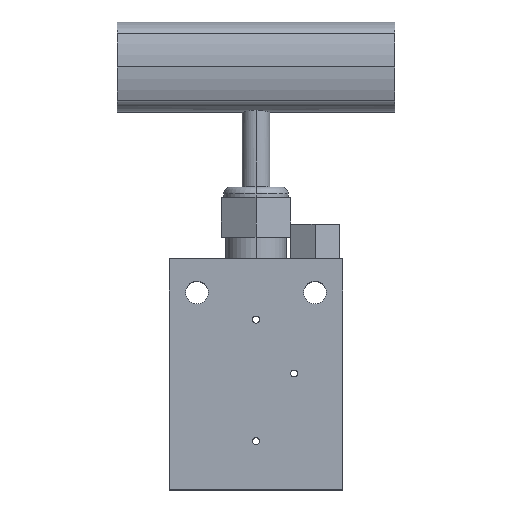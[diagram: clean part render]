
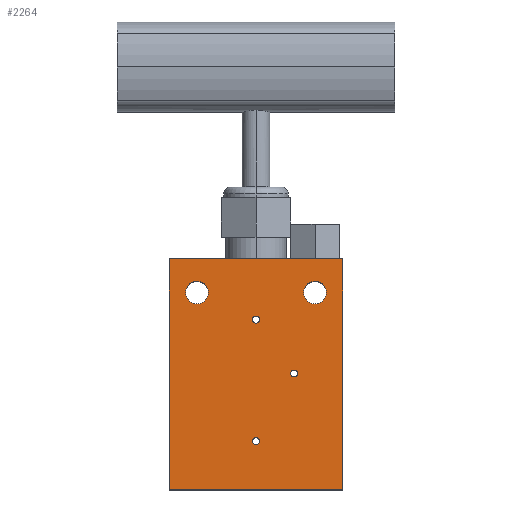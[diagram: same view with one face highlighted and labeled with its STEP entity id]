
A CAD part, top view. The second image highlights one B-rep face of the part: STEP entity #2264.
In plain terms, the highlighted planar face has unit normal (0, 0, 1).
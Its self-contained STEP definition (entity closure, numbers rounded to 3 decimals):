
#11 = CARTESIAN_POINT ( 'NONE',  ( 20.25, 23.55, 12.5 ) ) ;
#55 = EDGE_CURVE ( 'NONE', #1217, #2029, #1736, .T. ) ;
#92 = AXIS2_PLACEMENT_3D ( 'NONE', #2713, #550, #140 ) ;
#94 = DIRECTION ( 'NONE',  ( 0., 0., 1. ) ) ;
#95 = FACE_BOUND ( 'NONE', #2063, .T. ) ;
#112 = FACE_BOUND ( 'NONE', #2641, .T. ) ;
#131 = CARTESIAN_POINT ( 'NONE',  ( 1., 15.75, 12.5 ) ) ;
#139 = EDGE_CURVE ( 'NONE', #3047, #1367, #1787, .T. ) ;
#140 = DIRECTION ( 'NONE',  ( -1., 0., 0. ) ) ;
#154 = DIRECTION ( 'NONE',  ( 1., 0., 0. ) ) ;
#155 = AXIS2_PLACEMENT_3D ( 'NONE', #2219, #94, #2001 ) ;
#161 = CIRCLE ( 'NONE', #1995, 3.25 ) ;
#181 = CIRCLE ( 'NONE', #2253, 1. ) ;
#218 = CARTESIAN_POINT ( 'NONE',  ( -25., -33.25, 12.5 ) ) ;
#221 = ORIENTED_EDGE ( 'NONE', *, *, #1166, .F. ) ;
#250 = EDGE_CURVE ( 'NONE', #770, #2074, #2699, .T. ) ;
#288 = VECTOR ( 'NONE', #425, 1000. ) ;
#329 = DIRECTION ( 'NONE',  ( 0., 0., 1. ) ) ;
#343 = EDGE_CURVE ( 'NONE', #1687, #2174, #161, .T. ) ;
#421 = AXIS2_PLACEMENT_3D ( 'NONE', #2611, #1417, #1137 ) ;
#425 = DIRECTION ( 'NONE',  ( 0., 1., 0. ) ) ;
#429 = AXIS2_PLACEMENT_3D ( 'NONE', #2325, #2050, #866 ) ;
#533 = EDGE_LOOP ( 'NONE', ( #221, #2715 ) ) ;
#550 = DIRECTION ( 'NONE',  ( 0., 0., 1. ) ) ;
#562 = EDGE_LOOP ( 'NONE', ( #1670, #2669 ) ) ;
#563 = CARTESIAN_POINT ( 'NONE',  ( 0., 0., 12.5 ) ) ;
#570 = ORIENTED_EDGE ( 'NONE', *, *, #250, .F. ) ;
#580 = LINE ( 'NONE', #1529, #1004 ) ;
#592 = FACE_BOUND ( 'NONE', #562, .T. ) ;
#595 = LINE ( 'NONE', #1565, #1893 ) ;
#629 = CARTESIAN_POINT ( 'NONE',  ( -25., 33.25, 12.5 ) ) ;
#676 = EDGE_CURVE ( 'NONE', #926, #2058, #2732, .T. ) ;
#686 = EDGE_LOOP ( 'NONE', ( #2919, #910, #2983, #3068 ) ) ;
#699 = ORIENTED_EDGE ( 'NONE', *, *, #1050, .F. ) ;
#702 = CARTESIAN_POINT ( 'NONE',  ( 11., 0.25, 12.5 ) ) ;
#712 = DIRECTION ( 'NONE',  ( 1., 0., 0. ) ) ;
#722 = DIRECTION ( 'NONE',  ( 1., 0., 0. ) ) ;
#770 = VERTEX_POINT ( 'NONE', #131 ) ;
#800 = CARTESIAN_POINT ( 'NONE',  ( -17., 23.55, 12.5 ) ) ;
#850 = PLANE ( 'NONE',  #2354 ) ;
#866 = DIRECTION ( 'NONE',  ( 1., 0., 0. ) ) ;
#906 = CARTESIAN_POINT ( 'NONE',  ( 17., 23.55, 12.5 ) ) ;
#910 = ORIENTED_EDGE ( 'NONE', *, *, #676, .T. ) ;
#926 = VERTEX_POINT ( 'NONE', #218 ) ;
#967 = ORIENTED_EDGE ( 'NONE', *, *, #55, .F. ) ;
#1004 = VECTOR ( 'NONE', #2488, 1000. ) ;
#1006 = CARTESIAN_POINT ( 'NONE',  ( -17., 23.55, 12.5 ) ) ;
#1022 = CARTESIAN_POINT ( 'NONE',  ( -1., -19.25, 12.5 ) ) ;
#1026 = DIRECTION ( 'NONE',  ( 1., 0., 0. ) ) ;
#1050 = EDGE_CURVE ( 'NONE', #2174, #1687, #2606, .T. ) ;
#1051 = FACE_OUTER_BOUND ( 'NONE', #686, .T. ) ;
#1074 = VECTOR ( 'NONE', #1979, 1000. ) ;
#1083 = VERTEX_POINT ( 'NONE', #11 ) ;
#1118 = CARTESIAN_POINT ( 'NONE',  ( 1., -19.25, 12.5 ) ) ;
#1137 = DIRECTION ( 'NONE',  ( 1., 0., 0. ) ) ;
#1166 = EDGE_CURVE ( 'NONE', #1083, #2465, #3076, .T. ) ;
#1217 = VERTEX_POINT ( 'NONE', #1022 ) ;
#1255 = AXIS2_PLACEMENT_3D ( 'NONE', #1006, #1677, #712 ) ;
#1323 = CARTESIAN_POINT ( 'NONE',  ( 10., 0.25, 12.5 ) ) ;
#1339 = CIRCLE ( 'NONE', #1692, 1. ) ;
#1367 = VERTEX_POINT ( 'NONE', #1323 ) ;
#1417 = DIRECTION ( 'NONE',  ( 0., 0., 1. ) ) ;
#1529 = CARTESIAN_POINT ( 'NONE',  ( -25., 33.25, 12.5 ) ) ;
#1533 = DIRECTION ( 'NONE',  ( -1., 0., 0. ) ) ;
#1565 = CARTESIAN_POINT ( 'NONE',  ( -25., 33.25, 12.5 ) ) ;
#1578 = DIRECTION ( 'NONE',  ( 0., 0., 1. ) ) ;
#1625 = CARTESIAN_POINT ( 'NONE',  ( 25., 33.25, 12.5 ) ) ;
#1645 = DIRECTION ( 'NONE',  ( 0., 0., 1. ) ) ;
#1670 = ORIENTED_EDGE ( 'NONE', *, *, #139, .F. ) ;
#1677 = DIRECTION ( 'NONE',  ( 0., 0., 1. ) ) ;
#1687 = VERTEX_POINT ( 'NONE', #3016 ) ;
#1692 = AXIS2_PLACEMENT_3D ( 'NONE', #2720, #1715, #2013 ) ;
#1715 = DIRECTION ( 'NONE',  ( 0., 0., 1. ) ) ;
#1736 = CIRCLE ( 'NONE', #155, 1. ) ;
#1786 = FACE_BOUND ( 'NONE', #533, .T. ) ;
#1787 = CIRCLE ( 'NONE', #2588, 1. ) ;
#1793 = ORIENTED_EDGE ( 'NONE', *, *, #2406, .F. ) ;
#1807 = DIRECTION ( 'NONE',  ( 0., 0., 1. ) ) ;
#1816 = VERTEX_POINT ( 'NONE', #629 ) ;
#1835 = LINE ( 'NONE', #1849, #288 ) ;
#1849 = CARTESIAN_POINT ( 'NONE',  ( 25., 33.25, 12.5 ) ) ;
#1857 = DIRECTION ( 'NONE',  ( -1., 0., 0. ) ) ;
#1893 = VECTOR ( 'NONE', #1533, 1000. ) ;
#1898 = CARTESIAN_POINT ( 'NONE',  ( 0., 15.75, 12.5 ) ) ;
#1943 = EDGE_CURVE ( 'NONE', #2608, #1816, #595, .T. ) ;
#1979 = DIRECTION ( 'NONE',  ( 1., 0., 0. ) ) ;
#1995 = AXIS2_PLACEMENT_3D ( 'NONE', #800, #329, #1026 ) ;
#2001 = DIRECTION ( 'NONE',  ( 1., 0., 0. ) ) ;
#2013 = DIRECTION ( 'NONE',  ( 1., 0., 0. ) ) ;
#2029 = VERTEX_POINT ( 'NONE', #1118 ) ;
#2050 = DIRECTION ( 'NONE',  ( 0., 0., 1. ) ) ;
#2056 = CARTESIAN_POINT ( 'NONE',  ( 25., -33.25, 12.5 ) ) ;
#2058 = VERTEX_POINT ( 'NONE', #2056 ) ;
#2060 = EDGE_CURVE ( 'NONE', #2465, #1083, #2454, .T. ) ;
#2063 = EDGE_LOOP ( 'NONE', ( #699, #2914 ) ) ;
#2066 = ORIENTED_EDGE ( 'NONE', *, *, #2633, .F. ) ;
#2074 = VERTEX_POINT ( 'NONE', #3013 ) ;
#2174 = VERTEX_POINT ( 'NONE', #2441 ) ;
#2219 = CARTESIAN_POINT ( 'NONE',  ( 0., -19.25, 12.5 ) ) ;
#2253 = AXIS2_PLACEMENT_3D ( 'NONE', #1898, #1645, #722 ) ;
#2264 = ADVANCED_FACE ( 'NONE', ( #2692, #592, #112, #95, #1786, #1051 ), #850, .T. ) ;
#2301 = EDGE_CURVE ( 'NONE', #1816, #926, #580, .T. ) ;
#2325 = CARTESIAN_POINT ( 'NONE',  ( 0., -19.25, 12.5 ) ) ;
#2354 = AXIS2_PLACEMENT_3D ( 'NONE', #563, #1807, #2755 ) ;
#2406 = EDGE_CURVE ( 'NONE', #2074, #770, #181, .T. ) ;
#2441 = CARTESIAN_POINT ( 'NONE',  ( -13.75, 23.55, 12.5 ) ) ;
#2454 = CIRCLE ( 'NONE', #2551, 3.25 ) ;
#2465 = VERTEX_POINT ( 'NONE', #2882 ) ;
#2488 = DIRECTION ( 'NONE',  ( 0., -1., 0. ) ) ;
#2551 = AXIS2_PLACEMENT_3D ( 'NONE', #906, #2604, #1857 ) ;
#2588 = AXIS2_PLACEMENT_3D ( 'NONE', #702, #1578, #154 ) ;
#2598 = EDGE_CURVE ( 'NONE', #2058, #2608, #1835, .T. ) ;
#2604 = DIRECTION ( 'NONE',  ( 0., 0., 1. ) ) ;
#2606 = CIRCLE ( 'NONE', #1255, 3.25 ) ;
#2608 = VERTEX_POINT ( 'NONE', #1625 ) ;
#2610 = CARTESIAN_POINT ( 'NONE',  ( 12., 0.25, 12.5 ) ) ;
#2611 = CARTESIAN_POINT ( 'NONE',  ( 0., 15.75, 12.5 ) ) ;
#2633 = EDGE_CURVE ( 'NONE', #2029, #1217, #2661, .T. ) ;
#2641 = EDGE_LOOP ( 'NONE', ( #2066, #967 ) ) ;
#2661 = CIRCLE ( 'NONE', #429, 1. ) ;
#2669 = ORIENTED_EDGE ( 'NONE', *, *, #2836, .F. ) ;
#2692 = FACE_BOUND ( 'NONE', #2918, .T. ) ;
#2699 = CIRCLE ( 'NONE', #421, 1. ) ;
#2713 = CARTESIAN_POINT ( 'NONE',  ( 17., 23.55, 12.5 ) ) ;
#2715 = ORIENTED_EDGE ( 'NONE', *, *, #2060, .F. ) ;
#2720 = CARTESIAN_POINT ( 'NONE',  ( 11., 0.25, 12.5 ) ) ;
#2732 = LINE ( 'NONE', #2972, #1074 ) ;
#2755 = DIRECTION ( 'NONE',  ( 1., 0., 0. ) ) ;
#2836 = EDGE_CURVE ( 'NONE', #1367, #3047, #1339, .T. ) ;
#2882 = CARTESIAN_POINT ( 'NONE',  ( 13.75, 23.55, 12.5 ) ) ;
#2914 = ORIENTED_EDGE ( 'NONE', *, *, #343, .F. ) ;
#2918 = EDGE_LOOP ( 'NONE', ( #570, #1793 ) ) ;
#2919 = ORIENTED_EDGE ( 'NONE', *, *, #2301, .T. ) ;
#2972 = CARTESIAN_POINT ( 'NONE',  ( -25., -33.25, 12.5 ) ) ;
#2983 = ORIENTED_EDGE ( 'NONE', *, *, #2598, .T. ) ;
#3013 = CARTESIAN_POINT ( 'NONE',  ( -1., 15.75, 12.5 ) ) ;
#3016 = CARTESIAN_POINT ( 'NONE',  ( -20.25, 23.55, 12.5 ) ) ;
#3047 = VERTEX_POINT ( 'NONE', #2610 ) ;
#3068 = ORIENTED_EDGE ( 'NONE', *, *, #1943, .T. ) ;
#3076 = CIRCLE ( 'NONE', #92, 3.25 ) ;
